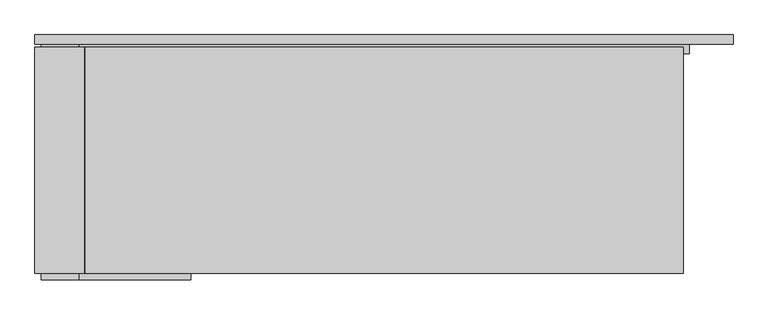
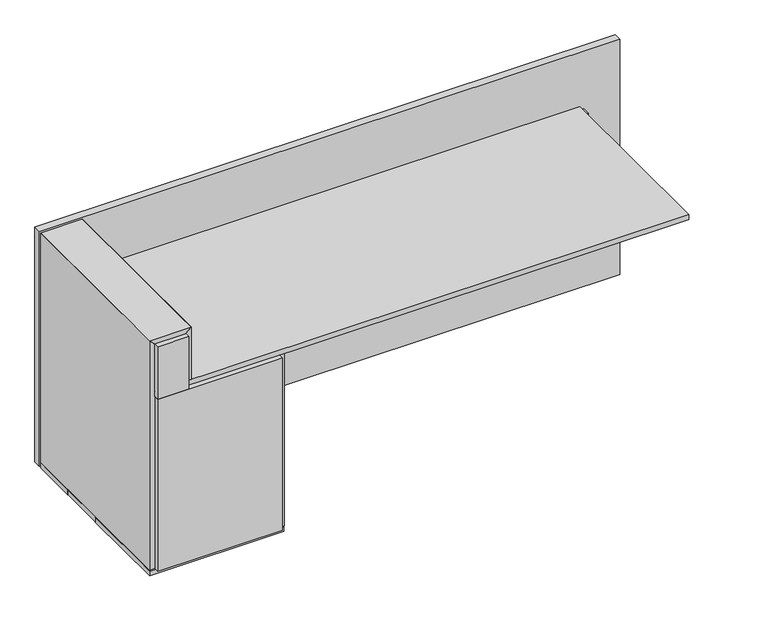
"""IFC4 building model written with IfcOpenShell, lengths in millimetres: proxy geometry, BASYS^WOOD END BASES_FULL MODESTY-84x30 BBF RT."""

from ifc_helpers import new_model, si_unit, frame, origin, place, context, project, spatial, polyline, outline, extrude, source, transform, mapped, element, save


def generic_models_0cc99233(model_context):
    return source(origin(), model_context, "Body", "SweptSolid", [
        extrude(outline(polyline([(-3298.9059888, -1.0582154), (-3298.9059888, 27.5167846), (-3184.6059888, 27.5167846), (-3184.6059888, -1.0582154), (-3298.9059888, -1.0582154)])), frame((0.0, 0.0, -92.6196655), z_axis=(0.0, 0.0, 1.0), x_axis=(1.0, 0.0, 0.0)), (0.0, 0.0, 1.0), 203.2),
        extrude(outline(polyline([(-3298.9059888, -655.1082154), (-3184.6059888, -655.1082154), (-3184.6059888, -693.2082154), (-3298.9059888, -693.2082154), (-3298.9059888, -655.1082154)])), frame((0.0, 0.0, -92.6196655), z_axis=(0.0, 0.0, 1.0), x_axis=(1.0, 0.0, 0.0)), (0.0, 0.0, 1.0), 203.2),
        extrude(outline(polyline([(110.5803345, -3184.6059888), (-73.5696655, -3184.6059888), (-73.5696655, -3165.5559888), (129.6303345, -3165.5559888), (110.5803345, -3184.6059888)])), frame((0.0, -674.1582154, 0.0), z_axis=(0.0, 1.0, 0.0), x_axis=(0.0, 0.0, 1.0)), (0.0, 0.0, 1.0), 692.15),
        extrude(outline(polyline([(-3298.9059888, -674.1582154), (-3298.9059888, 17.9917846), (-1336.7559888, 17.9917846), (-1336.7559888, -674.1582154), (-3298.9059888, -674.1582154)])), frame((0.0, 0.0, -92.6196655), z_axis=(0.0, 0.0, 1.0), x_axis=(1.0, 0.0, 0.0)), (0.0, 0.0, 1.0), 19.05),
        extrude(outline(polyline([(53.4303345, -3241.7559888), (129.6303345, -3165.5559888), (129.6303345, -3317.9559888), (53.4303345, -3241.7559888)])), frame((0.0, -674.1582154, 0.0), z_axis=(0.0, 1.0, 0.0), x_axis=(0.0, 0.0, 1.0)), (0.0, 0.0, 1.0), 692.15),
        extrude(outline(polyline([(-1184.3559888, 27.5167846), (-3317.9559888, 27.5167846), (-3317.9559888, 56.0917846), (-1184.3559888, 56.0917846), (-1184.3559888, 27.5167846)])), frame((0.0, 0.0, -784.7696655), z_axis=(0.0, 0.0, 1.0), x_axis=(1.0, 0.0, 0.0)), (0.0, 0.0, 1.0), 914.4),
        extrude(outline(polyline([(-762.5446655, -3298.9059888), (110.5803345, -3298.9059888), (129.6303345, -3317.9559888), (-762.5446655, -3317.9559888), (-762.5446655, -3298.9059888)])), frame((0.0, -674.1582154, 0.0), z_axis=(0.0, 1.0, 0.0), x_axis=(0.0, 0.0, 1.0)), (0.0, 0.0, 1.0), 692.15),
        extrude(outline(polyline([(-1317.7059888, 27.5167846), (-1317.7059888, -1.0582154), (-3184.6059888, -1.0582154), (-3184.6059888, 27.5167846), (-1317.7059888, 27.5167846)])), frame((0.0, 0.0, -118.0196655), z_axis=(0.0, 0.0, 1.0), x_axis=(1.0, 0.0, 0.0)), (0.0, 0.0, 1.0), 25.4),
        extrude(outline(polyline([(-2970.4966138, -37.8082154), (-3172.4966138, -37.8082154), (-3172.4966138, -27.8082154), (-2970.4966138, -27.8082154), (-2970.4966138, -37.8082154)])), frame((0.0, 0.0, -814.7696655), z_axis=(0.0, 0.0, 1.0), x_axis=(1.0, 0.0, 0.0)), (0.0, 0.0, 1.0), 30.0),
        extrude(outline(polyline([(-3298.9059888, 27.5167846), (-2841.7059888, 27.5167846), (-2841.7059888, -1.0582154), (-3298.9059888, -1.0582154), (-3298.9059888, 27.5167846)])), frame((0.0, 0.0, -762.5446655), z_axis=(0.0, 0.0, 1.0), x_axis=(1.0, 0.0, 0.0)), (0.0, 0.0, 1.0), 669.925),
        extrude(outline(polyline([(-2841.7059888, -674.1582154), (-2841.7059888, 17.9917846), (-2822.6559888, 17.9917846), (-2822.6559888, -674.1582154), (-2841.7059888, -674.1582154)])), frame((0.0, 0.0, -762.5446655), z_axis=(0.0, 0.0, 1.0), x_axis=(1.0, 0.0, 0.0)), (0.0, 0.0, 1.0), 669.925),
        extrude(outline(polyline([(-3317.9559888, -155.6410279), (-2825.0372388, -155.6410279), (-2825.0372388, -326.8925904), (-3317.9559888, -326.8925904), (-3317.9559888, -155.6410279)])), frame((0.0, 0.0, -784.7696655), z_axis=(0.0, 0.0, 1.0), x_axis=(1.0, 0.0, 0.0)), (0.0, 0.0, 1.0), 19.05),
        extrude(outline(polyline([(-3317.9559888, -329.2738404), (-2825.0372388, -329.2738404), (-2825.0372388, -674.1582154), (-3317.9559888, -674.1582154), (-3317.9559888, -329.2738404)])), frame((0.0, 0.0, -784.7696655), z_axis=(0.0, 0.0, 1.0), x_axis=(1.0, 0.0, 0.0)), (0.0, 0.0, 1.0), 19.05),
        extrude(outline(polyline([(-2841.7059888, -693.2082154), (-3298.9059888, -693.2082154), (-3298.9059888, -655.1082154), (-2841.7059888, -655.1082154), (-2841.7059888, -693.2082154)])), frame((0.0, 0.0, -762.5446655), z_axis=(0.0, 0.0, 1.0), x_axis=(1.0, 0.0, 0.0)), (0.0, 0.0, 1.0), 669.925),
        extrude(outline(polyline([(-2825.0372388, -153.2597779), (-3317.9559888, -153.2597779), (-3317.9559888, 17.9917846), (-2825.0372388, 17.9917846), (-2825.0372388, -153.2597779)])), frame((0.0, 0.0, -784.7696655), z_axis=(0.0, 0.0, 1.0), x_axis=(1.0, 0.0, 0.0)), (0.0, 0.0, 1.0), 19.05),
        extrude(outline(polyline([(-2970.4966138, -211.4410279), (-3172.4966138, -211.4410279), (-3172.4966138, -201.4410279), (-2970.4966138, -201.4410279), (-2970.4966138, -211.4410279)])), frame((0.0, 0.0, -814.7696655), z_axis=(0.0, 0.0, 1.0), x_axis=(1.0, 0.0, 0.0)), (0.0, 0.0, 1.0), 30.0),
        extrude(outline(polyline([(-2970.4966138, -385.0738404), (-3172.4966138, -385.0738404), (-3172.4966138, -375.0738404), (-2970.4966138, -375.0738404), (-2970.4966138, -385.0738404)])), frame((0.0, 0.0, -814.7696655), z_axis=(0.0, 0.0, 1.0), x_axis=(1.0, 0.0, 0.0)), (0.0, 0.0, 1.0), 30.0),
    ])


if __name__ == "__main__":
    model = new_model("IFC4")
    model_context = context("Model", 3, world=origin())
    ifc_project = project(units=[si_unit("LENGTHUNIT", "METRE", prefix="MILLI")], contexts=[model_context])
    site = spatial("IfcSite", under=ifc_project)
    building = spatial("IfcBuilding", under=site)
    placement = place(None, origin())
    generic_models_shape = generic_models_0cc99233(model_context)
    element("IfcBuildingElementProxy", 1, Name="BASYS^WOOD END BASES_FULL MODESTY-84x30 BBF RT", ObjectType="BASYS^WOOD END BASES_FULL MODESTY-84x30 BBF RT", at=placement, inside=building, context=model_context, shape_type="MappedRepresentation", body=[
        mapped(generic_models_shape, transform((0.0, 0.0, 0.0), x_axis=(1.0, 0.0, 0.0), y_axis=(0.0, 1.0, 0.0), z_axis=(0.0, 0.0, 1.0))),
    ])
    save(model, "model.ifc")
